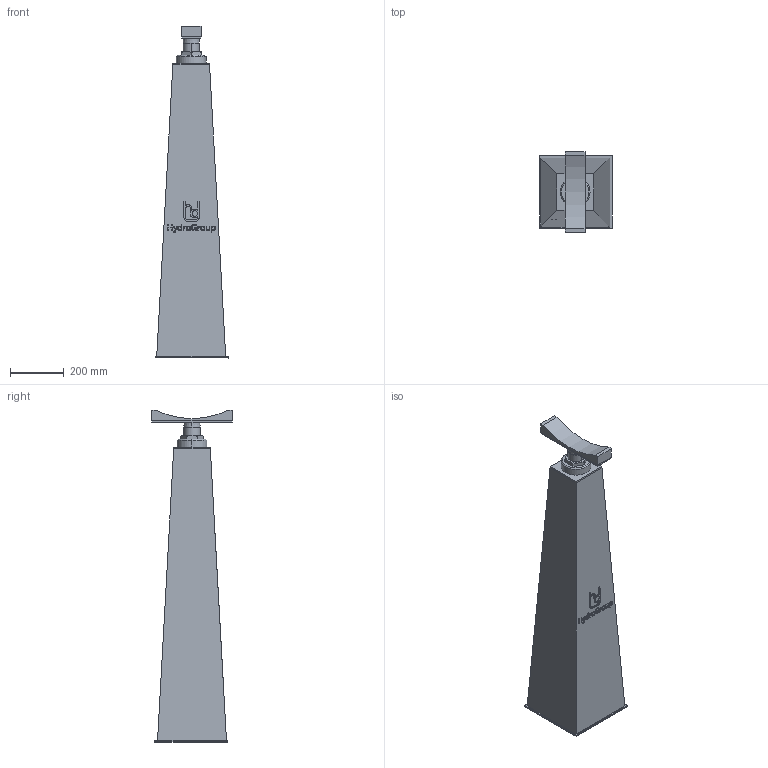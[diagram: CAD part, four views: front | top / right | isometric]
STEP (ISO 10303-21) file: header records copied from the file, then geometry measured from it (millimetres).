
FILE_DESCRIPTION(('STEP AP214'),'1');
FILE_NAME('RSRFE-IV_DN600.stp','2018-06-29T09:14:43',(' '),(' '),'Spatial InterOp 3D',' ',' ');
FILE_SCHEMA(('automotive_design'));
Length unit declared in the file: millimetre
Products named in the file (6): 1; 2; 3; 4; 5; 6
Bounding box: 270 x 299 x 1232.3 mm (x, y, z)
Volume: 45057125.4 mm3; surface area: 1303463.6 mm2
Topology: 6 solids, 6 shells, 220 faces, 544 edges, 355 vertices
Faces by surface type: plane 144, cylinder 30, extrusion 24, cone 18, torus 4
Entity records: 8878 total; most frequent: CARTESIAN_POINT 1799, ORIENTED_EDGE 1088, DIRECTION 1001, EDGE_CURVE 544, VECTOR 419, LINE 395, VERTEX_POINT 355, AXIS2_PLACEMENT_3D 291
